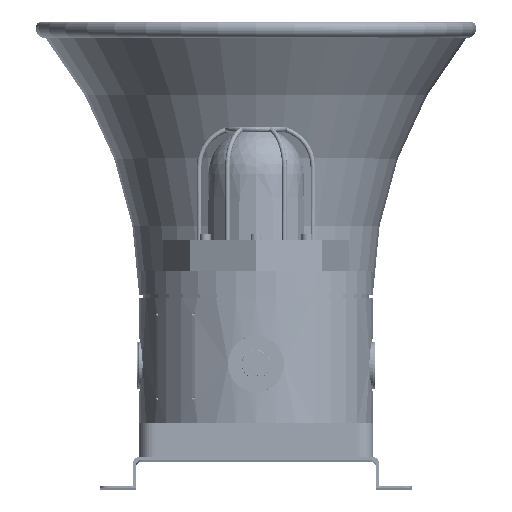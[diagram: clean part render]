
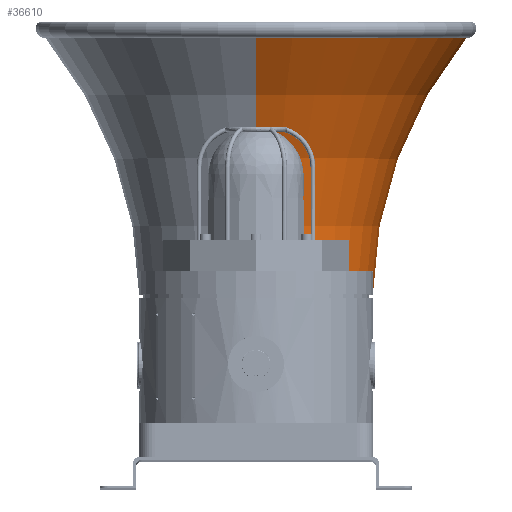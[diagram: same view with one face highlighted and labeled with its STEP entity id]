
A CAD part, top view. The second image highlights one B-rep face of the part: STEP entity #36610.
In plain terms, the highlighted toroidal (fillet/blend) face has major radius 340.879 mm and minor radius 265.9 mm.
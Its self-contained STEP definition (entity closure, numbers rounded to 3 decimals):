
#26553=CARTESIAN_POINT('',(0.,0.,-186.91));
#26554=DIRECTION('',(0.,0.,1.));
#26555=DIRECTION('',(0.,-1.,0.));
#26556=AXIS2_PLACEMENT_3D('',#26553,#26554,#26555);
#28896=CARTESIAN_POINT('',(0.,0.,-22.));
#28897=DIRECTION('',(0.,0.,1.));
#28898=DIRECTION('',(0.,-1.,0.));
#28899=AXIS2_PLACEMENT_3D('',#28896,#28897,#28898);
#28901=CARTESIAN_POINT('',(0.,-340.879,
-18.634));
#28902=DIRECTION('',(-1.,0.,0.));
#28903=DIRECTION('',(0.,1.,-0.013));
#28904=AXIS2_PLACEMENT_3D('',#28901,#28902,#28903);
#28906=CARTESIAN_POINT('',(0.,340.879,
-18.634));
#28907=DIRECTION('',(1.,0.,0.));
#28908=DIRECTION('',(0.,-1.,-0.013));
#28909=AXIS2_PLACEMENT_3D('',#28906,#28907,#28908);
#32843=CARTESIAN_POINT('',(0.,-135.,-186.91));
#32845=VERTEX_POINT('',#32843);
#32863=CARTESIAN_POINT('',(0.,-75.,-22.));
#32864=VERTEX_POINT('',#32863);
#32865=CARTESIAN_POINT('',(0.,135.,-186.91));
#32867=VERTEX_POINT('',#32865);
#32885=CARTESIAN_POINT('',(0.,75.,-22.));
#32886=VERTEX_POINT('',#32885);
#36597=CARTESIAN_POINT('',(0.,0.,-18.634));
#36598=DIRECTION('',(0.,0.,1.));
#36599=DIRECTION('',(0.,1.,0.));
#36600=AXIS2_PLACEMENT_3D('',#36597,#36598,#36599);
#36601=TOROIDAL_SURFACE('',#36600,340.879,265.9);
#36603=ORIENTED_EDGE('',*,*,#36602,.F.);
#36604=ORIENTED_EDGE('',*,*,#36550,.T.);
#36606=ORIENTED_EDGE('',*,*,#36605,.T.);
#36607=ORIENTED_EDGE('',*,*,#34784,.F.);
#36608=EDGE_LOOP('',(#36603,#36604,#36606,#36607));
#36609=FACE_OUTER_BOUND('',#36608,.F.);
#36610=ADVANCED_FACE('',(#36609),#36601,.F.);
#26557=CIRCLE('',#26556,135.);
#28900=CIRCLE('',#28899,75.);
#28905=CIRCLE('',#28904,265.9);
#28910=CIRCLE('',#28909,265.9);
#34784=EDGE_CURVE('',#32845,#32867,#26557,.T.);
#36550=EDGE_CURVE('',#32864,#32886,#28900,.T.);
#36602=EDGE_CURVE('',#32864,#32845,#28905,.T.);
#36605=EDGE_CURVE('',#32886,#32867,#28910,.T.);
